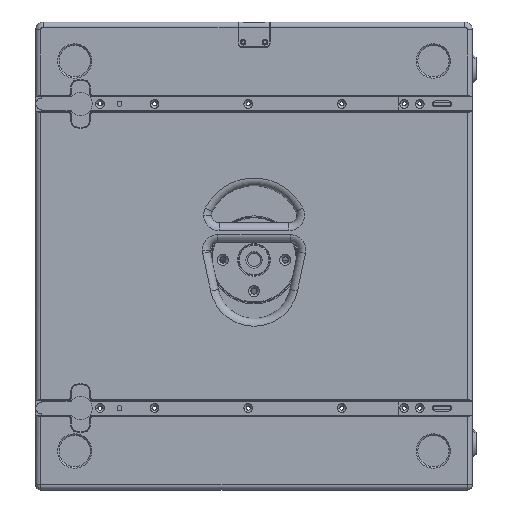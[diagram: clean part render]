
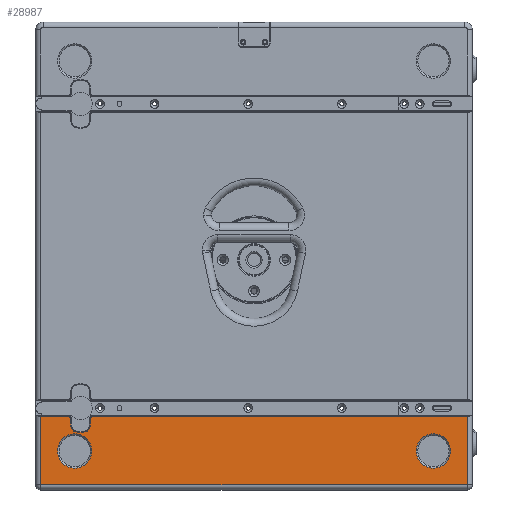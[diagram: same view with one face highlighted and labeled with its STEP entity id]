
A CAD part, left-side view. The second image highlights one B-rep face of the part: STEP entity #28987.
In plain terms, the highlighted planar face has unit normal (-1, 0, 0).
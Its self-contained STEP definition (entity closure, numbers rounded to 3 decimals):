
#3220 = FACE_BOUND ( 'NONE', #36697, .T. ) ;
#3221 = FACE_BOUND ( 'NONE', #36698, .T. ) ;
#3222 = FACE_OUTER_BOUND ( 'NONE', #36696, .T. ) ;
#4116 = PLANE ( 'NONE',  #55010 ) ;
#4117 = CARTESIAN_POINT ( 'NONE',  ( -356.043, 560., 0. ) ) ;
#4118 = DIRECTION ( 'NONE',  ( -1., 0., 0. ) ) ;
#4119 = DIRECTION ( 'NONE',  ( 0., 1., 0. ) ) ;
#5181 = AXIS2_PLACEMENT_3D ( 'NONE', #7268, #7269, #7270 ) ;
#5182 = AXIS2_PLACEMENT_3D ( 'NONE', #7271, #7272, #7273 ) ;
#5183 = AXIS2_PLACEMENT_3D ( 'NONE', #7284, #7285, #7286 ) ;
#5184 = AXIS2_PLACEMENT_3D ( 'NONE', #7289, #7290, #7291 ) ;
#5185 = AXIS2_PLACEMENT_3D ( 'NONE', #7292, #7293, #7294 ) ;
#5186 = AXIS2_PLACEMENT_3D ( 'NONE', #7295, #7296, #7297 ) ;
#5187 = AXIS2_PLACEMENT_3D ( 'NONE', #7300, #7301, #7302 ) ;
#7268 = CARTESIAN_POINT ( 'NONE',  ( -356.043, 510., -550. ) ) ;
#7269 = DIRECTION ( 'NONE',  ( 1., 0., 0. ) ) ;
#7270 = DIRECTION ( 'NONE',  ( 0., 1., 0. ) ) ;
#7271 = CARTESIAN_POINT ( 'NONE',  ( -356.043, 50., -550. ) ) ;
#7272 = DIRECTION ( 'NONE',  ( 1., 0., 0. ) ) ;
#7273 = DIRECTION ( 'NONE',  ( 0., 1., 0. ) ) ;
#7274 = CARTESIAN_POINT ( 'NONE',  ( -356.043, 560., -506. ) ) ;
#7275 = DIRECTION ( 'NONE',  ( 0., 1., 0. ) ) ;
#7276 = CARTESIAN_POINT ( 'NONE',  ( -356.043, 553.5, -600. ) ) ;
#7277 = DIRECTION ( 'NONE',  ( 0., 0., -1. ) ) ;
#7278 = CARTESIAN_POINT ( 'NONE',  ( -356.043, 0., -593.5 ) ) ;
#7279 = DIRECTION ( 'NONE',  ( 0., -1., 0. ) ) ;
#7280 = CARTESIAN_POINT ( 'NONE',  ( -356.043, 6.5, -506. ) ) ;
#7281 = DIRECTION ( 'NONE',  ( 0., 0., 1. ) ) ;
#7282 = CARTESIAN_POINT ( 'NONE',  ( -356.043, 486.32, -506. ) ) ;
#7283 = DIRECTION ( 'NONE',  ( 0., 1., 0. ) ) ;
#7284 = CARTESIAN_POINT ( 'NONE',  ( -356.043, 486.32, -510. ) ) ;
#7285 = DIRECTION ( 'NONE',  ( -1., 0., 0. ) ) ;
#7286 = DIRECTION ( 'NONE',  ( 0., 1., 0. ) ) ;
#7287 = CARTESIAN_POINT ( 'NONE',  ( -356.043, 490.32, -518.029 ) ) ;
#7288 = DIRECTION ( 'NONE',  ( 0., 0., -1. ) ) ;
#7289 = CARTESIAN_POINT ( 'NONE',  ( -356.043, 497.82, -518.029 ) ) ;
#7290 = DIRECTION ( 'NONE',  ( 1., 0., 0. ) ) ;
#7291 = DIRECTION ( 'NONE',  ( 0., 1., 0. ) ) ;
#7292 = CARTESIAN_POINT ( 'NONE',  ( -356.043, 502.5, -495. ) ) ;
#7293 = DIRECTION ( 'NONE',  ( 1., 0., 0. ) ) ;
#7294 = DIRECTION ( 'NONE',  ( 0., 1., 0. ) ) ;
#7295 = CARTESIAN_POINT ( 'NONE',  ( -356.043, 507.18, -518.029 ) ) ;
#7296 = DIRECTION ( 'NONE',  ( 1., 0., 0. ) ) ;
#7297 = DIRECTION ( 'NONE',  ( 0., 1., 0. ) ) ;
#7298 = CARTESIAN_POINT ( 'NONE',  ( -356.043, 514.68, -510. ) ) ;
#7299 = DIRECTION ( 'NONE',  ( 0., 0., 1. ) ) ;
#7300 = CARTESIAN_POINT ( 'NONE',  ( -356.043, 518.68, -510. ) ) ;
#7301 = DIRECTION ( 'NONE',  ( -1., 0., 0. ) ) ;
#7302 = DIRECTION ( 'NONE',  ( 0., 1., 0. ) ) ;
#8146 = CIRCLE ( 'NONE', #5181, 22. ) ;
#8147 = LINE ( 'NONE', #7274, #8149 ) ;
#8148 = CIRCLE ( 'NONE', #5182, 22. ) ;
#8149 = VECTOR ( 'NONE', #7275, 1000. ) ;
#8150 = LINE ( 'NONE', #7276, #8151 ) ;
#8151 = VECTOR ( 'NONE', #7277, 1000. ) ;
#8152 = LINE ( 'NONE', #7278, #8153 ) ;
#8153 = VECTOR ( 'NONE', #7279, 1000. ) ;
#8154 = LINE ( 'NONE', #7280, #8155 ) ;
#8155 = VECTOR ( 'NONE', #7281, 1000. ) ;
#8156 = LINE ( 'NONE', #7282, #8157 ) ;
#8157 = VECTOR ( 'NONE', #7283, 1000. ) ;
#8158 = LINE ( 'NONE', #7287, #8160 ) ;
#8159 = CIRCLE ( 'NONE', #5183, 4. ) ;
#8160 = VECTOR ( 'NONE', #7288, 1000. ) ;
#8161 = CIRCLE ( 'NONE', #5184, 7.5 ) ;
#8162 = CIRCLE ( 'NONE', #5185, 31. ) ;
#8163 = LINE ( 'NONE', #7298, #8165 ) ;
#8164 = CIRCLE ( 'NONE', #5186, 7.5 ) ;
#8165 = VECTOR ( 'NONE', #7299, 1000. ) ;
#8167 = CIRCLE ( 'NONE', #5187, 4. ) ;
#14800 = CARTESIAN_POINT ( 'NONE',  ( -356.043, 490.32, -518.029 ) ) ;
#14801 = CARTESIAN_POINT ( 'NONE',  ( -356.043, 6.5, -593.5 ) ) ;
#14802 = CARTESIAN_POINT ( 'NONE',  ( -356.043, 496.326, -525.379 ) ) ;
#14803 = CARTESIAN_POINT ( 'NONE',  ( -356.043, 508.674, -525.379 ) ) ;
#14804 = CARTESIAN_POINT ( 'NONE',  ( -356.043, 514.68, -518.029 ) ) ;
#14805 = CARTESIAN_POINT ( 'NONE',  ( -356.043, 514.68, -510. ) ) ;
#14816 = CARTESIAN_POINT ( 'NONE',  ( -356.043, 553.5, -593.5 ) ) ;
#14817 = CARTESIAN_POINT ( 'NONE',  ( -356.043, 553.5, -506. ) ) ;
#14818 = CARTESIAN_POINT ( 'NONE',  ( -356.043, 518.68, -506. ) ) ;
#14819 = CARTESIAN_POINT ( 'NONE',  ( -356.043, 6.5, -506. ) ) ;
#14820 = CARTESIAN_POINT ( 'NONE',  ( -356.043, 490.32, -510. ) ) ;
#14821 = CARTESIAN_POINT ( 'NONE',  ( -356.043, 486.32, -506. ) ) ;
#15853 = VERTEX_POINT ( 'NONE', #14818 ) ;
#15854 = VERTEX_POINT ( 'NONE', #14817 ) ;
#15855 = VERTEX_POINT ( 'NONE', #14816 ) ;
#15856 = VERTEX_POINT ( 'NONE', #14819 ) ;
#15857 = VERTEX_POINT ( 'NONE', #14821 ) ;
#15858 = VERTEX_POINT ( 'NONE', #14820 ) ;
#15859 = VERTEX_POINT ( 'NONE', #14800 ) ;
#15860 = VERTEX_POINT ( 'NONE', #14801 ) ;
#15861 = VERTEX_POINT ( 'NONE', #14802 ) ;
#15862 = VERTEX_POINT ( 'NONE', #14803 ) ;
#15863 = VERTEX_POINT ( 'NONE', #14804 ) ;
#15864 = VERTEX_POINT ( 'NONE', #14805 ) ;
#16166 = VERTEX_POINT ( 'NONE', #41029 ) ;
#16174 = VERTEX_POINT ( 'NONE', #41037 ) ;
#16718 = VERTEX_POINT ( 'NONE', #41581 ) ;
#16723 = VERTEX_POINT ( 'NONE', #41586 ) ;
#25189 = EDGE_CURVE ( 'NONE', #16718, #16723, #43804, .T. ) ;
#25194 = EDGE_CURVE ( 'NONE', #16166, #16174, #43812, .T. ) ;
#28987 = ADVANCED_FACE ( 'NONE', ( #3220, #3221, #3222 ), #4116, .T. ) ;
#29545 = EDGE_CURVE ( 'NONE', #16723, #16718, #8146, .T. ) ;
#29546 = EDGE_CURVE ( 'NONE', #16174, #16166, #8148, .T. ) ;
#29547 = EDGE_CURVE ( 'NONE', #15853, #15854, #8147, .T. ) ;
#29548 = EDGE_CURVE ( 'NONE', #15854, #15855, #8150, .T. ) ;
#29549 = EDGE_CURVE ( 'NONE', #15855, #15860, #8152, .T. ) ;
#29550 = EDGE_CURVE ( 'NONE', #15860, #15856, #8154, .T. ) ;
#29551 = EDGE_CURVE ( 'NONE', #15856, #15857, #8156, .T. ) ;
#29552 = EDGE_CURVE ( 'NONE', #15857, #15858, #8159, .T. ) ;
#29553 = EDGE_CURVE ( 'NONE', #15858, #15859, #8158, .T. ) ;
#29554 = EDGE_CURVE ( 'NONE', #15859, #15861, #8161, .T. ) ;
#29555 = EDGE_CURVE ( 'NONE', #15861, #15862, #8162, .T. ) ;
#29556 = EDGE_CURVE ( 'NONE', #15862, #15863, #8164, .T. ) ;
#29557 = EDGE_CURVE ( 'NONE', #15863, #15864, #8163, .T. ) ;
#29558 = EDGE_CURVE ( 'NONE', #15864, #15853, #8167, .T. ) ;
#36335 = ORIENTED_EDGE ( 'NONE', *, *, #29548, .T. ) ;
#36340 = ORIENTED_EDGE ( 'NONE', *, *, #25189, .T. ) ;
#36347 = ORIENTED_EDGE ( 'NONE', *, *, #29558, .T. ) ;
#36348 = ORIENTED_EDGE ( 'NONE', *, *, #29557, .T. ) ;
#36349 = ORIENTED_EDGE ( 'NONE', *, *, #29556, .T. ) ;
#36350 = ORIENTED_EDGE ( 'NONE', *, *, #29555, .T. ) ;
#36351 = ORIENTED_EDGE ( 'NONE', *, *, #29554, .T. ) ;
#36352 = ORIENTED_EDGE ( 'NONE', *, *, #29553, .T. ) ;
#36353 = ORIENTED_EDGE ( 'NONE', *, *, #29552, .T. ) ;
#36389 = ORIENTED_EDGE ( 'NONE', *, *, #29545, .T. ) ;
#36529 = ORIENTED_EDGE ( 'NONE', *, *, #25194, .T. ) ;
#36530 = ORIENTED_EDGE ( 'NONE', *, *, #29546, .T. ) ;
#36531 = ORIENTED_EDGE ( 'NONE', *, *, #29550, .T. ) ;
#36532 = ORIENTED_EDGE ( 'NONE', *, *, #29547, .T. ) ;
#36537 = ORIENTED_EDGE ( 'NONE', *, *, #29549, .T. ) ;
#36550 = ORIENTED_EDGE ( 'NONE', *, *, #29551, .T. ) ;
#36696 = EDGE_LOOP ( 'NONE', ( #36532, #36335, #36537, #36531, #36550, #36353, #36352, #36351, #36350, #36349, #36348, #36347 ) ) ;
#36697 = EDGE_LOOP ( 'NONE', ( #36340, #36389 ) ) ;
#36698 = EDGE_LOOP ( 'NONE', ( #36529, #36530 ) ) ;
#41029 = CARTESIAN_POINT ( 'NONE',  ( -356.043, 72., -550. ) ) ;
#41037 = CARTESIAN_POINT ( 'NONE',  ( -356.043, 28., -550. ) ) ;
#41581 = CARTESIAN_POINT ( 'NONE',  ( -356.043, 532., -550. ) ) ;
#41586 = CARTESIAN_POINT ( 'NONE',  ( -356.043, 488., -550. ) ) ;
#42582 = AXIS2_PLACEMENT_3D ( 'NONE', #44792, #44793, #44794 ) ;
#42585 = AXIS2_PLACEMENT_3D ( 'NONE', #44805, #44806, #44807 ) ;
#43804 = CIRCLE ( 'NONE', #42582, 22. ) ;
#43812 = CIRCLE ( 'NONE', #42585, 22. ) ;
#44792 = CARTESIAN_POINT ( 'NONE',  ( -356.043, 510., -550. ) ) ;
#44793 = DIRECTION ( 'NONE',  ( 1., 0., 0. ) ) ;
#44794 = DIRECTION ( 'NONE',  ( 0., 1., 0. ) ) ;
#44805 = CARTESIAN_POINT ( 'NONE',  ( -356.043, 50., -550. ) ) ;
#44806 = DIRECTION ( 'NONE',  ( 1., 0., 0. ) ) ;
#44807 = DIRECTION ( 'NONE',  ( 0., 1., 0. ) ) ;
#55010 = AXIS2_PLACEMENT_3D ( 'NONE', #4117, #4118, #4119 ) ;
